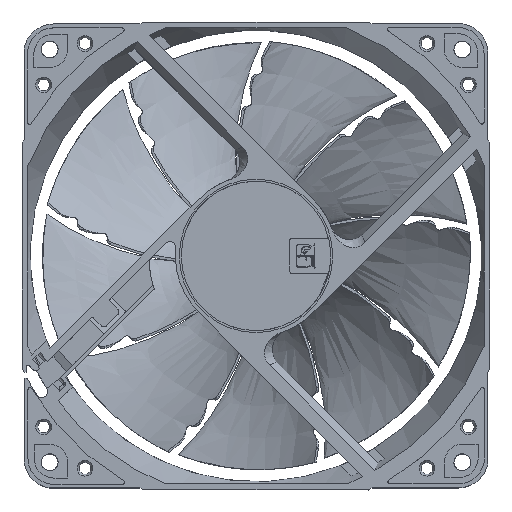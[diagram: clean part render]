
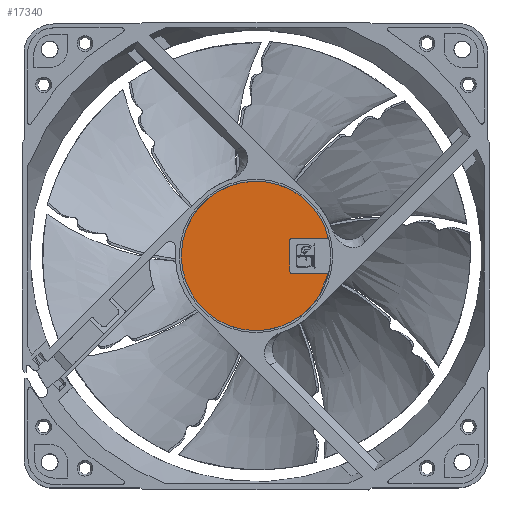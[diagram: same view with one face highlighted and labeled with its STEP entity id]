
A CAD part, top view. The second image highlights one B-rep face of the part: STEP entity #17340.
In plain terms, the highlighted planar face has unit normal (0, 0, 1).
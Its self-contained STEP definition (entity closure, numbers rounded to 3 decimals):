
#272=LINE('',#34110,#1497);
#273=LINE('',#34114,#1498);
#274=LINE('',#34118,#1499);
#1497=VECTOR('',#20809,1000.);
#1498=VECTOR('',#20812,1000.);
#1499=VECTOR('',#20815,1000.);
#2786=CIRCLE('',#18840,0.6);
#2787=CIRCLE('',#18841,0.6);
#2788=CIRCLE('',#18842,0.6);
#2789=CIRCLE('',#18843,0.6);
#2793=CIRCLE('',#18848,19.);
#3425=PLANE('',#18850);
#5177=ORIENTED_EDGE('',*,*,#10148,.F.);
#5178=ORIENTED_EDGE('',*,*,#10147,.F.);
#5179=ORIENTED_EDGE('',*,*,#10163,.F.);
#5180=ORIENTED_EDGE('',*,*,#10153,.T.);
#5181=ORIENTED_EDGE('',*,*,#10152,.F.);
#5182=ORIENTED_EDGE('',*,*,#10151,.F.);
#5183=ORIENTED_EDGE('',*,*,#10150,.F.);
#5184=ORIENTED_EDGE('',*,*,#10149,.F.);
#10147=EDGE_CURVE('',#12721,#12722,#2786,.T.);
#10148=EDGE_CURVE('',#12722,#12723,#272,.T.);
#10149=EDGE_CURVE('',#12723,#12724,#2787,.T.);
#10150=EDGE_CURVE('',#12724,#12725,#273,.T.);
#10151=EDGE_CURVE('',#12725,#12726,#2788,.T.);
#10152=EDGE_CURVE('',#12726,#12727,#274,.T.);
#10153=EDGE_CURVE('',#12728,#12727,#2789,.T.);
#10163=EDGE_CURVE('',#12728,#12721,#2793,.T.);
#12721=VERTEX_POINT('',#34108);
#12722=VERTEX_POINT('',#34109);
#12723=VERTEX_POINT('',#34111);
#12724=VERTEX_POINT('',#34113);
#12725=VERTEX_POINT('',#34115);
#12726=VERTEX_POINT('',#34117);
#12727=VERTEX_POINT('',#34119);
#12728=VERTEX_POINT('',#34121);
#15213=EDGE_LOOP('',(#5177,#5178,#5179,#5180,#5181,#5182,#5183,#5184));
#16279=FACE_BOUND('',#15213,.T.);
#17340=ADVANCED_FACE('',(#16279),#3425,.F.);
#18840=AXIS2_PLACEMENT_3D('',#34107,#20807,#20808);
#18841=AXIS2_PLACEMENT_3D('',#34112,#20810,#20811);
#18842=AXIS2_PLACEMENT_3D('',#34116,#20813,#20814);
#18843=AXIS2_PLACEMENT_3D('',#34120,#20816,#20817);
#18848=AXIS2_PLACEMENT_3D('',#34148,#20831,#20832);
#18850=AXIS2_PLACEMENT_3D('',#34151,#20835,#20836);
#20807=DIRECTION('',(0.,0.,1.));
#20808=DIRECTION('',(1.,0.,0.));
#20809=DIRECTION('',(0.,-1.,0.));
#20810=DIRECTION('',(0.,0.,1.));
#20811=DIRECTION('',(1.,0.,0.));
#20812=DIRECTION('',(1.,0.,0.));
#20813=DIRECTION('',(0.,0.,1.));
#20814=DIRECTION('',(-1.,0.,0.));
#20815=DIRECTION('',(0.,1.,0.));
#20816=DIRECTION('',(0.,0.,-1.));
#20817=DIRECTION('',(-1.,0.,0.));
#20831=DIRECTION('',(0.,0.,-1.));
#20832=DIRECTION('',(1.,0.,0.));
#20835=DIRECTION('',(0.,0.,-1.));
#20836=DIRECTION('',(-1.,0.,0.));
#34107=CARTESIAN_POINT('',(-3.85,17.993,0.5));
#34108=CARTESIAN_POINT('',(-3.976,18.579,0.5));
#34109=CARTESIAN_POINT('',(-4.45,17.993,0.5));
#34110=CARTESIAN_POINT('',(-4.45,17.993,0.5));
#34111=CARTESIAN_POINT('',(-4.45,9.2,0.5));
#34112=CARTESIAN_POINT('',(-3.85,9.2,0.5));
#34113=CARTESIAN_POINT('',(-3.85,8.6,0.5));
#34114=CARTESIAN_POINT('',(-3.85,8.6,0.5));
#34115=CARTESIAN_POINT('',(3.85,8.6,0.5));
#34116=CARTESIAN_POINT('',(3.85,9.2,0.5));
#34117=CARTESIAN_POINT('',(4.45,9.2,0.5));
#34118=CARTESIAN_POINT('',(4.45,9.2,0.5));
#34119=CARTESIAN_POINT('',(4.45,17.993,0.5));
#34120=CARTESIAN_POINT('',(3.85,17.993,0.5));
#34121=CARTESIAN_POINT('',(3.976,18.579,0.5));
#34148=CARTESIAN_POINT('',(0.,0.,0.5));
#34151=CARTESIAN_POINT('',(0.,0.,0.5));
